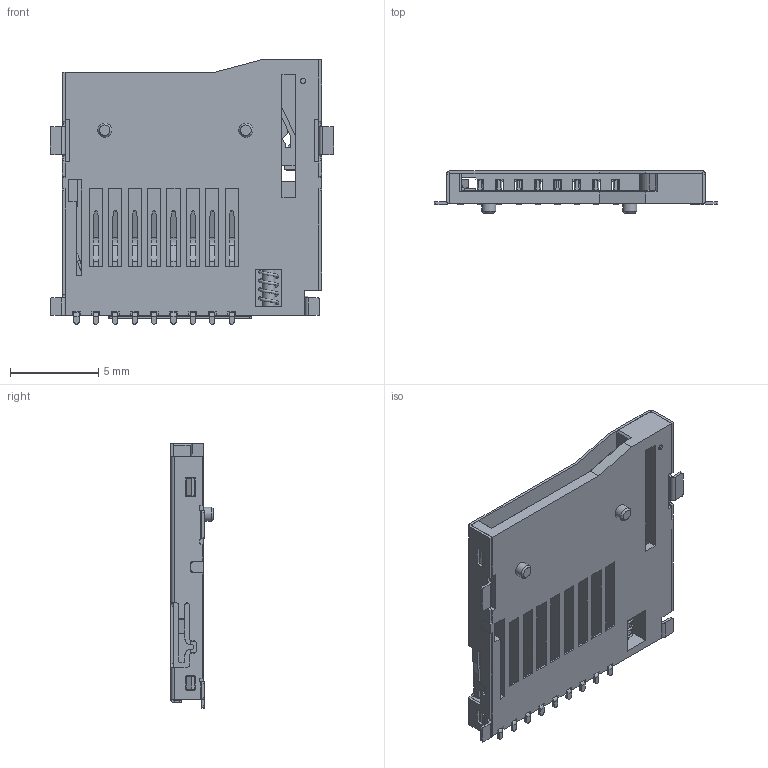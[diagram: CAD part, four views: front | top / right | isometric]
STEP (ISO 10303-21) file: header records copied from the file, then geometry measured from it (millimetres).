
FILE_DESCRIPTION (( 'STEP AP214' ), '1' );
FILE_NAME ('TF-15X15.STEP', '2021-06-21T13:38:31', ( '' ), ( '' ), 'SwSTEP 2.0', 'SolidWorks 2018', '' );
FILE_SCHEMA (( 'AUTOMOTIVE_DESIGN' ));
Length unit declared in the file: millimetre
Products named in the file (2): TF-15X15
Bounding box: 16.1 x 2.4 x 15 mm (x, y, z)
Volume: 190.5 mm3; surface area: 1228.6 mm2
Topology: 15 solids, 15 shells, 1203 faces, 3085 edges, 1890 vertices
Faces by surface type: plane 874, cylinder 277, torus 48, bspline 2, cone 2
Full cylindrical faces by diameter (mm): 0.8 x2
Entity records: 50950 total; most frequent: CARTESIAN_POINT 8587, ORIENTED_EDGE 6158, DIRECTION 5922, EDGE_CURVE 3079, VECTOR 2432, LINE 2432, VERTEX_POINT 1888, AXIS2_PLACEMENT_3D 1745
